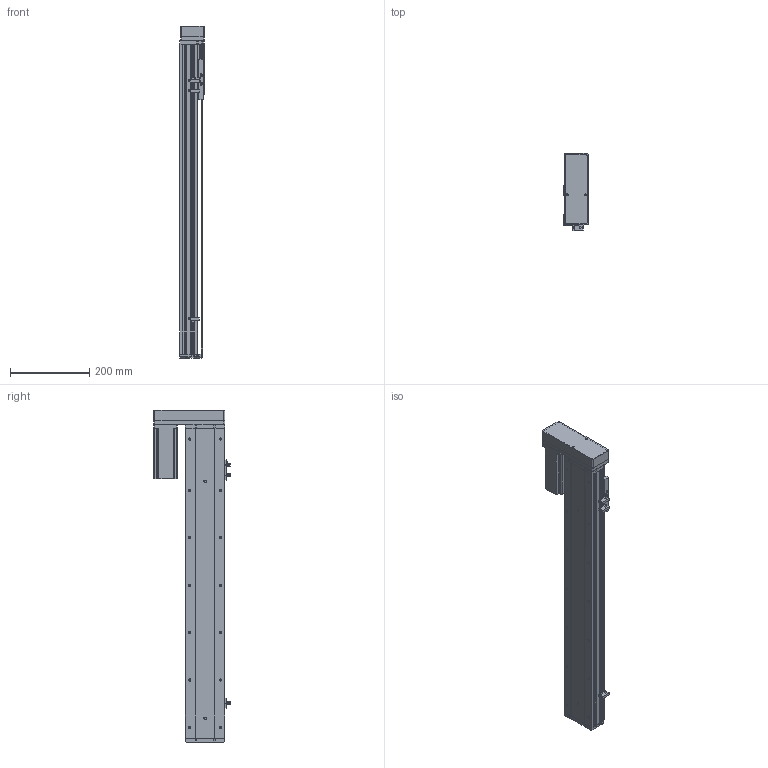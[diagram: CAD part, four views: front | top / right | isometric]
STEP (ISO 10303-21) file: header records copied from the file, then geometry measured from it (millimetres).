
FILE_DESCRIPTION (( 'STEP AP214' ), '1' );
FILE_NAME ('KSD100S-S600-ML-CM.STEP', '2019-08-30T06:13:56', ( '微软用户' ), ( '微软中国' ), 'SwSTEP 2.0', 'SolidWorks 2014', '' );
FILE_SCHEMA (( 'AUTOMOTIVE_DESIGN' ));
Length unit declared in the file: millimetre
Products named in the file (11): 悵誘欶酘衵殏; 台达ECMA－C20604AS伺服电机; 100宽马达安装板连板左右折丝杆; U倰嫖萇EEㄜSX672; 覜茼え100遵圉猾敕; 100宽防尘板丝杆600行程; 100遵鎮湛假蚾啣; 100宽滚珠螺姆安装板半封闭; 100遵傷啣; 100宽底板半封闭丝杆600行程; KSD100S-S600-ML-CM
Assembly tree (12 placements, depth 2):
  KSD100S-S600-ML-CM
    100宽底板半封闭丝杆600行程
    100遵傷啣
    100宽滚珠螺姆安装板半封闭
    100遵鎮湛假蚾啣
    100宽防尘板丝杆600行程
    覜茼え100遵圉猾敕
    U倰嫖萇EEㄜSX672  x3
    100宽马达安装板连板左右折丝杆
    台达ECMA－C20604AS伺服电机
    悵誘欶酘衵殏
Bounding box: 62 x 193.7 x 840.5 mm (x, y, z)
Volume: 2178847.4 mm3; surface area: 692355.6 mm2
Topology: 13 solids, 13 shells, 1249 faces, 3508 edges, 2221 vertices
Faces by surface type: cylinder 610, plane 504, cone 135
Entity records: 43089 total; most frequent: CARTESIAN_POINT 8203, DIRECTION 5903, ORIENTED_EDGE 5652, EDGE_CURVE 2826, AXIS2_PLACEMENT_3D 2149, VERTEX_POINT 1845, VECTOR 1605, LINE 1605
